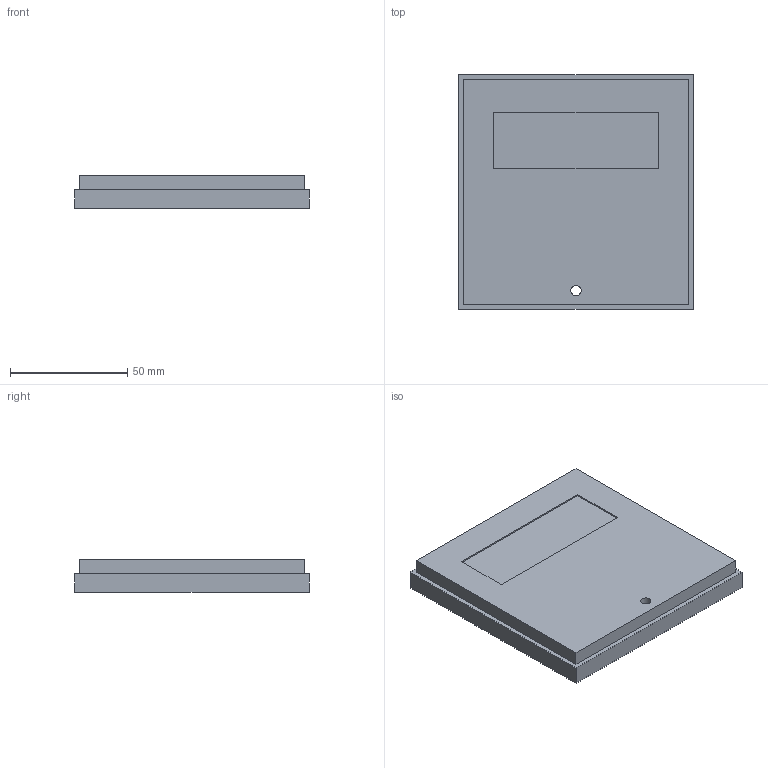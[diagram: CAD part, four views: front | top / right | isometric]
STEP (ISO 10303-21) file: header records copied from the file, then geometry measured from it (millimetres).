
FILE_DESCRIPTION(('Open CASCADE Model'),'2;1');
FILE_NAME('Open CASCADE Shape Model','2026-07-02T19:59:30',('Author'),( 'Open CASCADE'),'Open CASCADE STEP processor 7.7','Open CASCADE 7.7' ,'Unknown');
FILE_SCHEMA(('AUTOMOTIVE_DESIGN { 1 0 10303 214 1 1 1 1 }'));
Length unit declared in the file: millimetre
Products named in the file (1): Open CASCADE STEP translator 7.7 2
Bounding box: 100 x 100 x 14 mm (x, y, z)
Volume: 134075.1 mm3; surface area: 25779.9 mm2
Topology: 1 solids, 1 shells, 17 faces, 39 edges, 26 vertices
Faces by surface type: plane 16, cylinder 1
Full cylindrical faces by diameter (mm): 4.4 x1
Entity records: 996 total; most frequent: CARTESIAN_POINT 161, DIRECTION 155, LINE 113, VECTOR 113, ORIENTED_EDGE 78, PCURVE 78, DEFINITIONAL_REPRESENTATION 78, EDGE_CURVE 39
